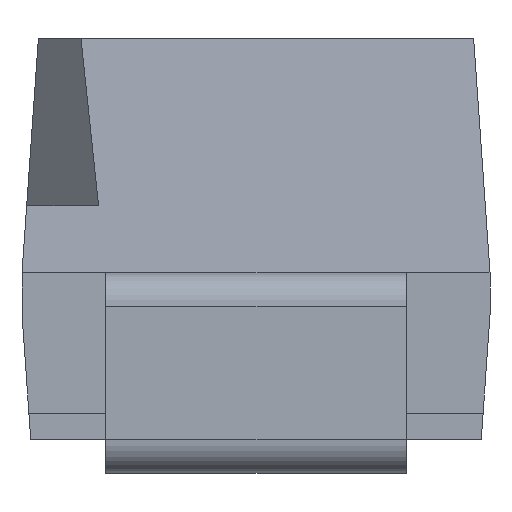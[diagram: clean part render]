
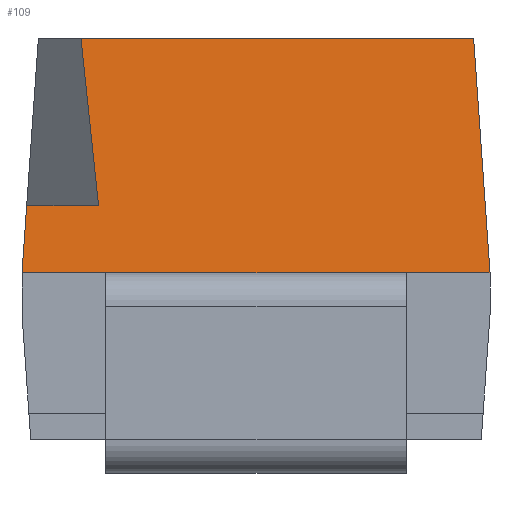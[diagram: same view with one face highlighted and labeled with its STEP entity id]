
A CAD part, front view. The second image highlights one B-rep face of the part: STEP entity #109.
In plain terms, the highlighted planar face has unit normal (0, -0.995, 0.104).
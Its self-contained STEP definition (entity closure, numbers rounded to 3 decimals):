
#109=ADVANCED_FACE('',(#212),#213,.F.);
#212=FACE_OUTER_BOUND('',#345,.T.);
#213=PLANE('',#346);
#345=EDGE_LOOP('',(#683,#684,#685,#686,#687,#688,#689,#690));
#346=AXIS2_PLACEMENT_3D('',#691,#692,#693);
#683=ORIENTED_EDGE('',*,*,#1040,.T.);
#684=ORIENTED_EDGE('',*,*,#1043,.T.);
#685=ORIENTED_EDGE('',*,*,#989,.T.);
#686=ORIENTED_EDGE('',*,*,#1053,.T.);
#687=ORIENTED_EDGE('',*,*,#1034,.T.);
#688=ORIENTED_EDGE('',*,*,#1051,.T.);
#689=ORIENTED_EDGE('',*,*,#1044,.F.);
#690=ORIENTED_EDGE('',*,*,#1037,.T.);
#691=CARTESIAN_POINT('',(0.,-0.926,0.0));
#692=DIRECTION('',(0.,0.995,-0.105));
#693=DIRECTION('',(0.,0.105,0.995));
#989=EDGE_CURVE('',#1204,#1202,#1205,.T.);
#1034=EDGE_CURVE('',#1268,#1270,#1272,.T.);
#1037=EDGE_CURVE('',#1278,#1276,#1279,.T.);
#1040=EDGE_CURVE('',#1276,#1281,#1283,.T.);
#1043=EDGE_CURVE('',#1281,#1204,#1287,.T.);
#1044=EDGE_CURVE('',#1278,#1288,#1289,.T.);
#1051=EDGE_CURVE('',#1270,#1288,#1298,.T.);
#1053=EDGE_CURVE('',#1202,#1268,#1300,.T.);
#1202=VERTEX_POINT('',#1516);
#1204=VERTEX_POINT('',#1519);
#1205=LINE('',#1520,#1521);
#1268=VERTEX_POINT('',#1618);
#1270=VERTEX_POINT('',#1621);
#1272=LINE('',#1624,#1625);
#1276=VERTEX_POINT('',#1630);
#1278=VERTEX_POINT('',#1633);
#1279=LINE('',#1634,#1635);
#1281=VERTEX_POINT('',#1638);
#1283=LINE('',#1641,#1642);
#1287=LINE('',#1648,#1649);
#1288=VERTEX_POINT('',#1650);
#1289=LINE('',#1651,#1652);
#1298=LINE('',#1665,#1666);
#1300=LINE('',#1669,#1670);
#1516=CARTESIAN_POINT('',(-0.45,-1.,-0.7));
#1519=CARTESIAN_POINT('',(-0.7,-1.,-0.7));
#1520=CARTESIAN_POINT('',(-0.7,-1.,-0.7));
#1521=VECTOR('',#1885,0.25);
#1618=CARTESIAN_POINT('',(0.45,-1.,-0.7));
#1621=CARTESIAN_POINT('',(0.7,-1.,-0.7));
#1624=CARTESIAN_POINT('',(0.45,-1.,-0.7));
#1625=VECTOR('',#1946,0.25);
#1630=CARTESIAN_POINT('',(-0.471,-0.979,-0.5));
#1633=CARTESIAN_POINT('',(-0.524,-0.926,0.));
#1634=CARTESIAN_POINT('',(-0.524,-0.926,0.));
#1635=VECTOR('',#1949,0.505);
#1638=CARTESIAN_POINT('',(-0.686,-0.979,-0.5));
#1641=CARTESIAN_POINT('',(-0.471,-0.979,-0.5));
#1642=VECTOR('',#1952,0.215);
#1648=CARTESIAN_POINT('',(-0.686,-0.979,-0.5));
#1649=VECTOR('',#1955,0.202);
#1650=CARTESIAN_POINT('',(0.651,-0.926,0.));
#1651=CARTESIAN_POINT('',(-0.524,-0.926,0.));
#1652=VECTOR('',#1956,1.175);
#1665=CARTESIAN_POINT('',(0.7,-1.,-0.7));
#1666=VECTOR('',#1967,0.706);
#1669=CARTESIAN_POINT('',(-0.45,-1.,-0.7));
#1670=VECTOR('',#1969,0.9);
#1885=DIRECTION('',(1.0,0.,0.));
#1946=DIRECTION('',(1.0,0.,0.));
#1949=DIRECTION('',(0.104,-0.104,-0.989));
#1952=DIRECTION('',(-1.0,0.,0.));
#1955=DIRECTION('',(-0.069,-0.104,-0.992));
#1956=DIRECTION('',(1.0,0.,0.));
#1967=DIRECTION('',(-0.069,0.104,0.992));
#1969=DIRECTION('',(1.0,0.,0.));
